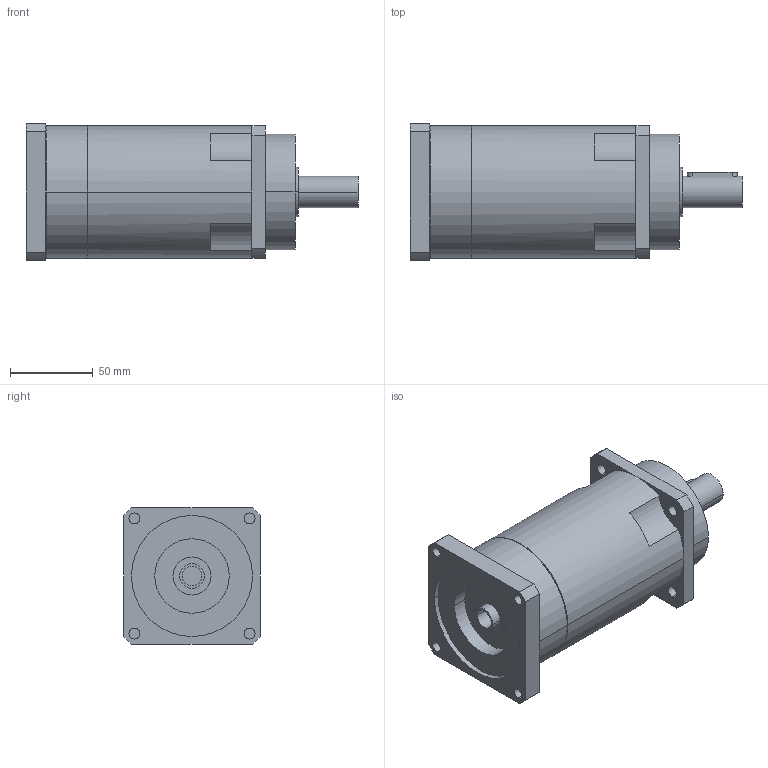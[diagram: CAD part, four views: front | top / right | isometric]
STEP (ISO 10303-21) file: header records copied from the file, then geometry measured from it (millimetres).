
FILE_DESCRIPTION(('CoCreate Modeling STEP Export'),'2;1');
FILE_NAME('GPR100_ig-48-64-80-100-120-144-180-216_19_B5_12_P05.stp','2014-08-26T11:53:52',(''),(''),'CoCreate Modeling STEP processor for AP214 (Solid Model)','CoCreate Modeling 16.00C 25-Feb-2009 (C) Parametric Technology GmbH','');
FILE_SCHEMA(('AUTOMOTIVE_DESIGN { 1 0 10303 214 1 1 1 1 }'));
Length unit declared in the file: millimetre
Products named in the file (2): GPR100_ig-48-64-80-100-120-144-180-216_19_B5_12_P05
Assembly tree (1 placements, depth 2):
  GPR100_ig-48-64-80-100-120-144-180-216_19_B5_12_P05
    GPR100_ig-48-64-80-100-120-144-180-216_19_B5_12_P05
Bounding box: 200.4 x 82.5 x 82.5 mm (x, y, z)
Volume: 798621 mm3; surface area: 65507.9 mm2
Topology: 1 solids, 1 shells, 89 faces, 244 edges, 166 vertices
Faces by surface type: cylinder 52, plane 31, cone 6
Entity records: 2597 total; most frequent: ORIENTED_EDGE 484, CARTESIAN_POINT 471, DIRECTION 386, EDGE_CURVE 242, VERTEX_POINT 166, AXIS2_PLACEMENT_3D 145, EDGE_LOOP 116, VECTOR 96
